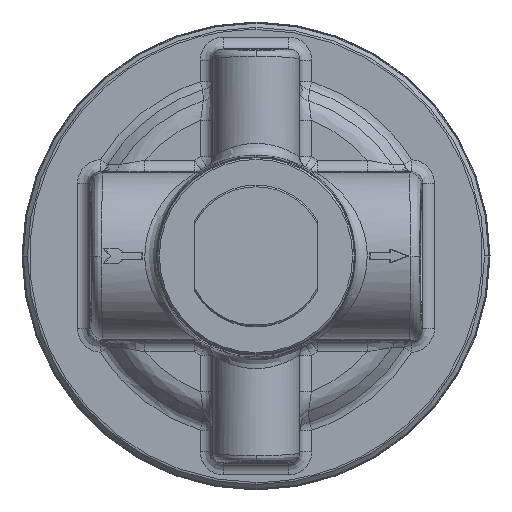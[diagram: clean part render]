
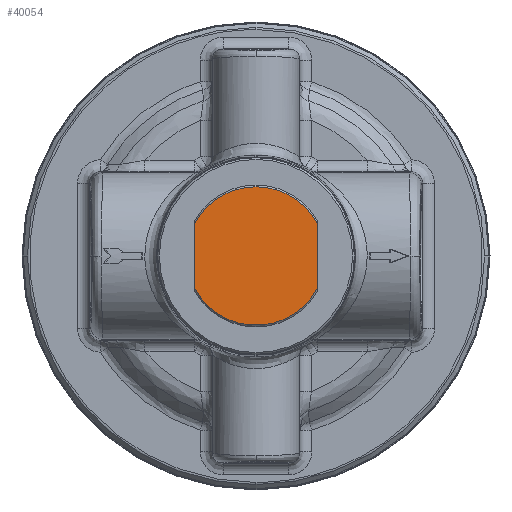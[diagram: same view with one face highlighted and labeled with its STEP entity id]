
A CAD part, front view. The second image highlights one B-rep face of the part: STEP entity #40054.
In plain terms, the highlighted planar face has unit normal (0, -1, 0).
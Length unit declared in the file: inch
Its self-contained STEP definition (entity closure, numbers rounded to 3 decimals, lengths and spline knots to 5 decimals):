
#2727 = CARTESIAN_POINT ( 'NONE',  ( 0., -2.792, 0. ) ) ;
#2728 = DIRECTION ( 'NONE',  ( 0., 1., 0. ) ) ;
#2729 = DIRECTION ( 'NONE',  ( 0., 0., 1. ) ) ;
#3033 = AXIS2_PLACEMENT_3D ( 'NONE', #2727, #2728, #2729 ) ;
#3068 = CIRCLE ( 'NONE', #3033, 0.69975 ) ;
#3809 = AXIS2_PLACEMENT_3D ( 'NONE', #20386, #20387, #20388 ) ;
#3813 = CIRCLE ( 'NONE', #3809, 0.69975 ) ;
#3817 = AXIS2_PLACEMENT_3D ( 'NONE', #20375, #20376, #20377 ) ;
#3819 = VECTOR ( 'NONE', #20378, 39.37008 ) ;
#3821 = CIRCLE ( 'NONE', #3817, 0.69975 ) ;
#3859 = VECTOR ( 'NONE', #20374, 39.37008 ) ;
#17458 = CARTESIAN_POINT ( 'NONE',  ( 0., -2.792, 0.69975 ) ) ;
#17462 = CARTESIAN_POINT ( 'NONE',  ( -0.62, -2.792, 0.32442 ) ) ;
#19514 = CARTESIAN_POINT ( 'NONE',  ( 0.62, -2.792, 0.32442 ) ) ;
#19515 = CARTESIAN_POINT ( 'NONE',  ( -0.62, -2.792, -0.32442 ) ) ;
#19524 = CARTESIAN_POINT ( 'NONE',  ( 0.62, -2.792, -0.32442 ) ) ;
#20369 = LINE ( 'NONE', #20371, #3859 ) ;
#20371 = CARTESIAN_POINT ( 'NONE',  ( 0.62, -2.792, 1. ) ) ;
#20372 = CARTESIAN_POINT ( 'NONE',  ( -0.62, -2.792, 1. ) ) ;
#20373 = LINE ( 'NONE', #20372, #3819 ) ;
#20374 = DIRECTION ( 'NONE',  ( 0., 0., 1. ) ) ;
#20375 = CARTESIAN_POINT ( 'NONE',  ( 0., -2.792, 0. ) ) ;
#20376 = DIRECTION ( 'NONE',  ( 0., 1., 0. ) ) ;
#20377 = DIRECTION ( 'NONE',  ( 0., 0., 1. ) ) ;
#20378 = DIRECTION ( 'NONE',  ( 0., 0., 1. ) ) ;
#20386 = CARTESIAN_POINT ( 'NONE',  ( 0., -2.792, 0. ) ) ;
#20387 = DIRECTION ( 'NONE',  ( 0., 1., 0. ) ) ;
#20388 = DIRECTION ( 'NONE',  ( 0., 0., 1. ) ) ;
#21866 = EDGE_CURVE ( 'NONE', #24392, #24388, #3068, .T. ) ;
#23066 = EDGE_CURVE ( 'NONE', #23910, #23900, #20369, .T. ) ;
#23067 = EDGE_CURVE ( 'NONE', #23910, #23901, #3821, .T. ) ;
#23068 = EDGE_CURVE ( 'NONE', #23901, #24392, #20373, .T. ) ;
#23071 = EDGE_CURVE ( 'NONE', #24388, #23900, #3813, .T. ) ;
#23900 = VERTEX_POINT ( 'NONE', #19514 ) ;
#23901 = VERTEX_POINT ( 'NONE', #19515 ) ;
#23910 = VERTEX_POINT ( 'NONE', #19524 ) ;
#24388 = VERTEX_POINT ( 'NONE', #17458 ) ;
#24392 = VERTEX_POINT ( 'NONE', #17462 ) ;
#29582 = AXIS2_PLACEMENT_3D ( 'NONE', #32798, #32804, #32805 ) ;
#32798 = CARTESIAN_POINT ( 'NONE',  ( 0., -2.792, 0. ) ) ;
#32800 = FACE_OUTER_BOUND ( 'NONE', #44363, .T. ) ;
#32801 = PLANE ( 'NONE',  #29582 ) ;
#32804 = DIRECTION ( 'NONE',  ( 0., 1., 0. ) ) ;
#32805 = DIRECTION ( 'NONE',  ( -1., 0., 0. ) ) ;
#40054 = ADVANCED_FACE ( 'NONE', ( #32800 ), #32801, .F. ) ;
#44363 = EDGE_LOOP ( 'NONE', ( #44766, #44765, #44764, #44763, #44762 ) ) ;
#44762 = ORIENTED_EDGE ( 'NONE', *, *, #23071, .F. ) ;
#44763 = ORIENTED_EDGE ( 'NONE', *, *, #23066, .T. ) ;
#44764 = ORIENTED_EDGE ( 'NONE', *, *, #23067, .F. ) ;
#44765 = ORIENTED_EDGE ( 'NONE', *, *, #23068, .F. ) ;
#44766 = ORIENTED_EDGE ( 'NONE', *, *, #21866, .F. ) ;
